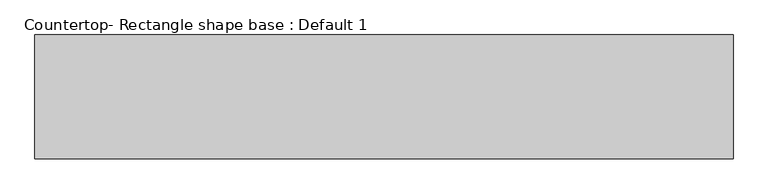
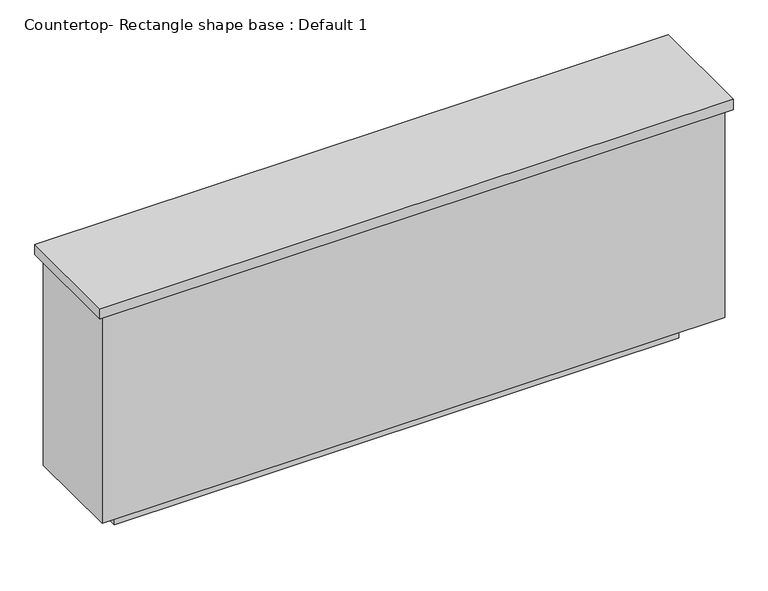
"""IFC4 building model written with IfcOpenShell, lengths in millimetres: proxy geometry, Countertop- Rectangle shape base : Default 1."""

from ifc_helpers import new_model, si_unit, frame, origin, origin_with_axes, place, context, project, spatial, polyline, outline, extrude, source, transform, mapped, element, save


def countertop_rectangle_shape_base_default_1_c1775fbe(model_context):
    return source(origin(), model_context, "Body", "SweptSolid", [
        extrude(outline(polyline([(-346.075, 184.15), (-346.075, 577.85), (1870.075, 577.85), (1870.075, 184.15), (-346.075, 184.15)])), frame((0.0, 0.0, 876.3), z_axis=(0.0, 0.0, 1.0), x_axis=(1.0, 0.0, 0.0)), (0.0, 0.0, 1.0), 38.1),
        extrude(outline(polyline([(1851.025, 558.8), (1851.025, 203.2), (-327.025, 203.2), (-327.025, 558.8), (1851.025, 558.8)])), frame((0.0, 0.0, 101.6), z_axis=(0.0, 0.0, 1.0), x_axis=(1.0, 0.0, 0.0)), (0.0, 0.0, 1.0), 774.7),
        extrude(outline(polyline([(1749.425, 457.2), (1749.425, 304.8), (-225.425, 304.8), (-225.425, 457.2), (1749.425, 457.2)])), origin_with_axes(), (0.0, 0.0, 1.0), 101.6),
    ])


if __name__ == "__main__":
    model = new_model("IFC4")
    model_context = context("Model", 3, world=origin())
    ifc_project = project(units=[si_unit("LENGTHUNIT", "METRE", prefix="MILLI")], contexts=[model_context])
    site = spatial("IfcSite", under=ifc_project)
    building = spatial("IfcBuilding", under=site)
    placement = place(None, origin())
    countertop_rectangle_shape_base_default_1_shape = countertop_rectangle_shape_base_default_1_c1775fbe(model_context)
    element("IfcBuildingElementProxy", 1, Name="Countertop- Rectangle shape base : Default 1", ObjectType="Countertop- Rectangle shape base : Default 1", at=placement, inside=building, context=model_context, shape_type="MappedRepresentation", body=[
        mapped(countertop_rectangle_shape_base_default_1_shape, transform((0.0, 0.0, 0.0), x_axis=(1.0, 0.0, 0.0), y_axis=(0.0, 1.0, 0.0), z_axis=(0.0, 0.0, 1.0))),
    ])
    save(model, "model.ifc")
